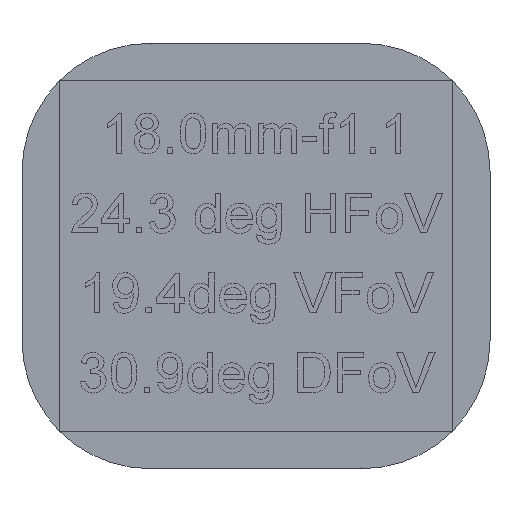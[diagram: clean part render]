
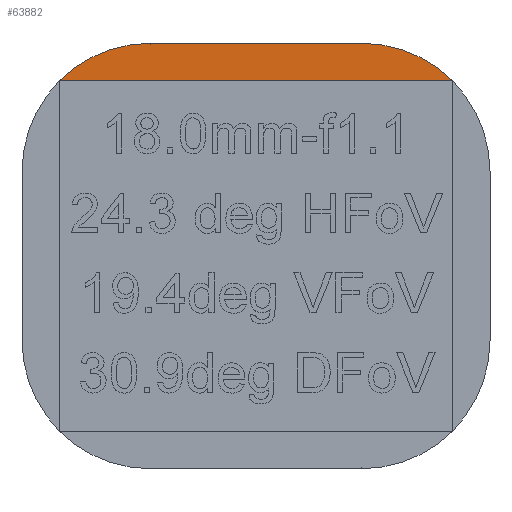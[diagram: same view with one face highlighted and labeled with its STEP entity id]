
A CAD part, top view. The second image highlights one B-rep face of the part: STEP entity #63882.
In plain terms, the highlighted planar face has unit normal (0, 0, 1).
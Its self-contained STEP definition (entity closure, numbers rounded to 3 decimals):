
#2738 = EDGE_CURVE ( 'NONE', #58836, #7660, #61757, .T. ) ;
#6532 = VERTEX_POINT ( 'NONE', #160369 ) ;
#7660 = VERTEX_POINT ( 'NONE', #75446 ) ;
#15166 = CARTESIAN_POINT ( 'NONE',  ( 6.632, 5.301, 49.8 ) ) ;
#23255 = CARTESIAN_POINT ( 'NONE',  ( -6.632, 13.328, 49.8 ) ) ;
#23827 = DIRECTION ( 'NONE',  ( -1., 0., 0. ) ) ;
#28789 = CARTESIAN_POINT ( 'NONE',  ( 6.632, 13.328, 49.8 ) ) ;
#37816 = CARTESIAN_POINT ( 'NONE',  ( -6.632, 13.328, 49.8 ) ) ;
#39863 = VECTOR ( 'NONE', #53029, 1000. ) ;
#41706 = AXIS2_PLACEMENT_3D ( 'NONE', #84981, #70627, #110771 ) ;
#43168 = AXIS2_PLACEMENT_3D ( 'NONE', #129369, #101993, #155757 ) ;
#52199 = LINE ( 'NONE', #117644, #39863 ) ;
#52879 = ORIENTED_EDGE ( 'NONE', *, *, #119293, .T. ) ;
#53029 = DIRECTION ( 'NONE',  ( -1., 0., 0. ) ) ;
#58836 = VERTEX_POINT ( 'NONE', #37816 ) ;
#61757 = CIRCLE ( 'NONE', #43168, 8.027 ) ;
#63882 = ADVANCED_FACE ( 'NONE', ( #150919 ), #146190, .F. ) ;
#65994 = DIRECTION ( 'NONE',  ( 0., 0., -1. ) ) ;
#70627 = DIRECTION ( 'NONE',  ( 0., 0., 1. ) ) ;
#70701 = VECTOR ( 'NONE', #23827, 1000. ) ;
#73084 = CIRCLE ( 'NONE', #41706, 8.027 ) ;
#75446 = CARTESIAN_POINT ( 'NONE',  ( -12.308, 10.977, 49.8 ) ) ;
#84981 = CARTESIAN_POINT ( 'NONE',  ( 6.632, 5.301, 49.8 ) ) ;
#97496 = ORIENTED_EDGE ( 'NONE', *, *, #2738, .T. ) ;
#101060 = ORIENTED_EDGE ( 'NONE', *, *, #145543, .F. ) ;
#101993 = DIRECTION ( 'NONE',  ( 0., 0., 1. ) ) ;
#110771 = DIRECTION ( 'NONE',  ( -1., 0., 0. ) ) ;
#117644 = CARTESIAN_POINT ( 'NONE',  ( -12.308, 10.977, 49.8 ) ) ;
#119293 = EDGE_CURVE ( 'NONE', #126080, #58836, #140397, .T. ) ;
#120432 = AXIS2_PLACEMENT_3D ( 'NONE', #15166, #65994, #159877 ) ;
#124857 = ORIENTED_EDGE ( 'NONE', *, *, #125492, .T. ) ;
#125492 = EDGE_CURVE ( 'NONE', #6532, #126080, #73084, .T. ) ;
#126080 = VERTEX_POINT ( 'NONE', #28789 ) ;
#129369 = CARTESIAN_POINT ( 'NONE',  ( -6.632, 5.301, 49.8 ) ) ;
#140397 = LINE ( 'NONE', #23255, #70701 ) ;
#145543 = EDGE_CURVE ( 'NONE', #6532, #7660, #52199, .T. ) ;
#146190 = PLANE ( 'NONE',  #120432 ) ;
#150919 = FACE_OUTER_BOUND ( 'NONE', #168844, .T. ) ;
#155757 = DIRECTION ( 'NONE',  ( -1., 0., 0. ) ) ;
#159877 = DIRECTION ( 'NONE',  ( -1., 0., 0. ) ) ;
#160369 = CARTESIAN_POINT ( 'NONE',  ( 12.308, 10.977, 49.8 ) ) ;
#168844 = EDGE_LOOP ( 'NONE', ( #101060, #124857, #52879, #97496 ) ) ;
